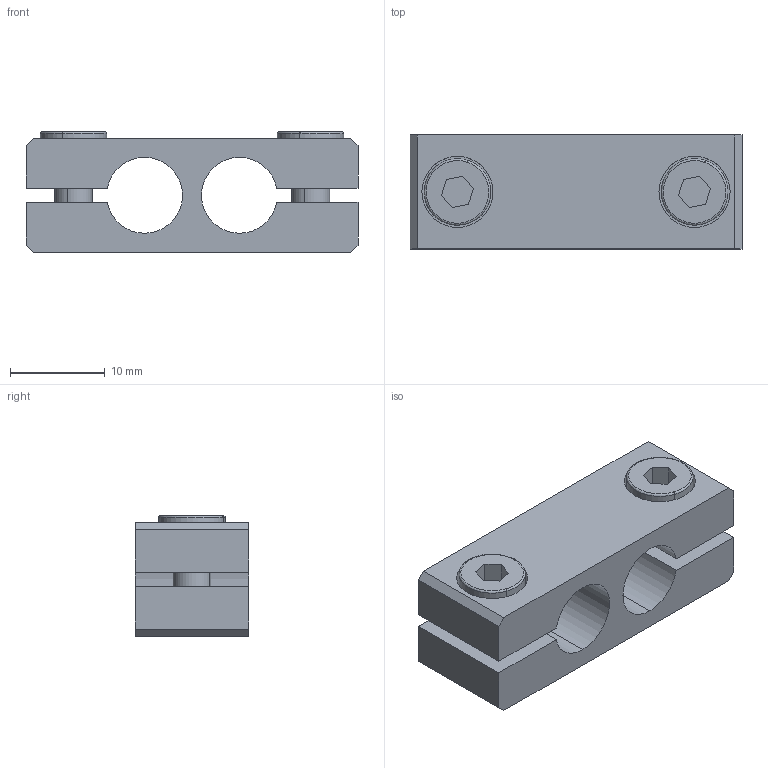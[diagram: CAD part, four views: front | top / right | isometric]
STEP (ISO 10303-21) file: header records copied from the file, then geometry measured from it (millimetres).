
FILE_DESCRIPTION (( 'STEP AP214' ), '1' );
FILE_NAME ('SMBP-0808T.STEP', '2022-12-30T08:42:57', ( 'Windows User' ), ( 'P R C' ), 'SwSTEP 2.0', 'SolidWorks 2018', '' );
FILE_SCHEMA (( 'AUTOMOTIVE_DESIGN' ));
Length unit declared in the file: millimetre
Products named in the file (1): SMBP-0808T
Bounding box: 35 x 12 x 12.7 mm (x, y, z)
Volume: 3438.4 mm3; surface area: 3605.1 mm2
Topology: 5 solids, 5 shells, 464 faces, 1332 edges, 880 vertices
Faces by surface type: plane 422, cylinder 34, cone 4, bspline 4
Entity records: 20672 total; most frequent: CARTESIAN_POINT 2925, DIRECTION 2686, ORIENTED_EDGE 2664, EDGE_CURVE 1332, AXIS2_PLACEMENT_3D 901, VECTOR 884, LINE 884, VERTEX_POINT 880
